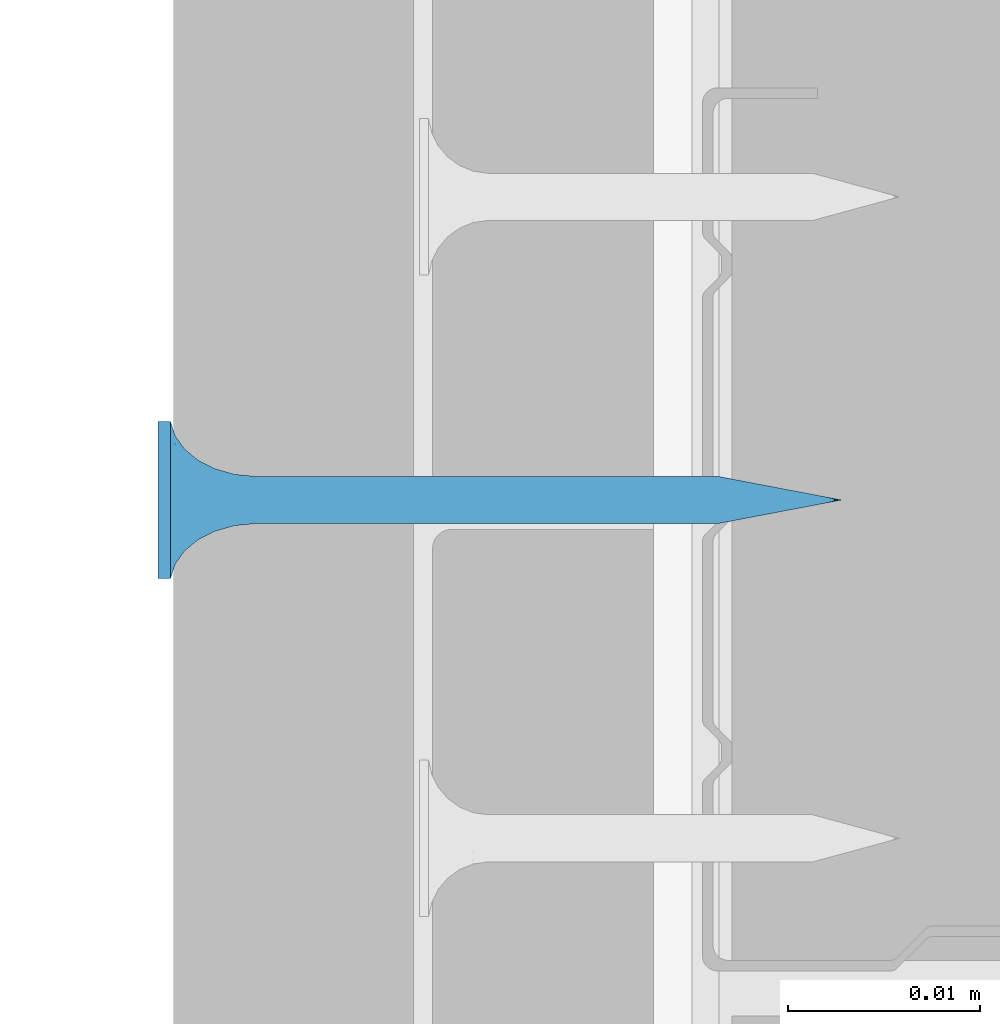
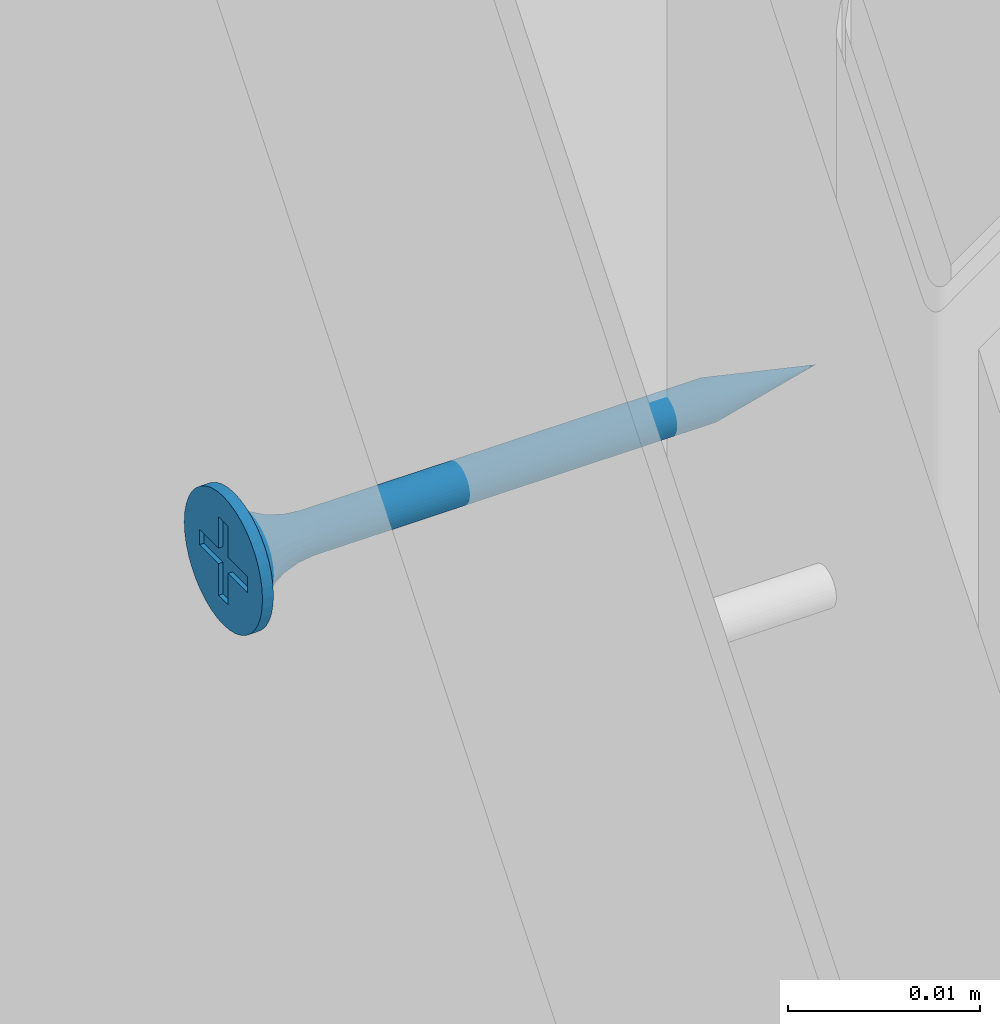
# One storey, part 62 of 92: 1 wall.
"""IFC2X3 building model written with IfcOpenShell, lengths in millimetres."""

import ifcopenshell
import ifcopenshell.guid

model = None  # the IFC model being written
_history = None  # IfcOwnerHistory: only IFC2X3 demands one
_inside = {}  # id of a spatial element -> (the spatial element, [elements in it])
_under = {}  # id of a project, library or spatial element -> (it, [spatial elements below it])
_declared = {}  # id of a project -> (the project, [libraries it declares])
_typed = {}  # id of a type object -> (the type object, [elements of that type])
_made_of = {}  # id of a material, layer set ... -> (it, [elements and type objects made of it])


def new_model(schema):
    """Start an empty IFC model of exactly this schema.

    Asked for "IFC4X3", IfcOpenShell would pick the latest addendum, in which some entities
    have other attributes; the version numbers below select the first issue.
    IFC2X3 requires an IfcOwnerHistory on every rooted entity: one is made here for all.
    """
    global model, _history
    if schema == "IFC4X3":
        model = ifcopenshell.file(schema_version=(4, 3, 0, 0))
    else:
        model = ifcopenshell.file(schema=schema)
    _inside.clear()
    _under.clear()
    _declared.clear()
    _typed.clear()
    _made_of.clear()
    _history = None
    if model.schema == "IFC2X3":
        org = make("IfcOrganization", Name="unknown")
        user = make(
            "IfcPersonAndOrganization",
            ThePerson=make("IfcPerson", FamilyName="unknown"),
            TheOrganization=org,
        )
        app = make(
            "IfcApplication",
            ApplicationDeveloper=org,
            Version="unknown",
            ApplicationFullName="unknown",
            ApplicationIdentifier="unknown",
        )
        _history = make(
            "IfcOwnerHistory",
            OwningUser=user,
            OwningApplication=app,
            ChangeAction="ADDED",
            CreationDate=0,
        )
    return model


def make(cls, **values):
    """One entity of the class cls with the attributes given. An attribute that is None is left unset."""
    return model.create_entity(
        cls, **{name: value for name, value in values.items() if value is not None}
    )


def rooted(cls, **values):
    """An entity with a GlobalId (a new one), such as an element, a storey or a relation."""
    return make(cls, GlobalId=ifcopenshell.guid.new(), OwnerHistory=_history, **values)


def si_unit(unit_type, name, prefix=None):
    """IfcSIUnit, for example si_unit("LENGTHUNIT", "METRE", prefix="MILLI")."""
    return make("IfcSIUnit", UnitType=unit_type, Prefix=prefix, Name=name)


def assignment(units):
    """IfcUnitAssignment: the units of a project."""
    return None if units is None else make("IfcUnitAssignment", Units=units)


def point(xyz):
    """IfcCartesianPoint."""
    return None if xyz is None else make("IfcCartesianPoint", Coordinates=xyz)


def direction(xyz):
    """IfcDirection."""
    return None if xyz is None else make("IfcDirection", DirectionRatios=xyz)


def frame(location, z_axis=None, x_axis=None):
    """IfcAxis2Placement3D, a coordinate frame: its origin and axes. An axis left out is left unset."""
    return make(
        "IfcAxis2Placement3D",
        Location=point(location),
        Axis=direction(z_axis),
        RefDirection=direction(x_axis),
    )


def origin_with_axes():
    """The frame at (0, 0, 0) with the z axis (0, 0, 1) and the x axis (1, 0, 0) written out."""
    return frame((0.0, 0.0, 0.0), z_axis=(0.0, 0.0, 1.0), x_axis=(1.0, 0.0, 0.0))


def place(relative_to, where):
    """IfcLocalPlacement: puts the frame where relative to a parent placement (None: the world)."""
    return make(
        "IfcLocalPlacement", PlacementRelTo=relative_to, RelativePlacement=where
    )


def context(
    kind, dimensions, precision=None, world=None, true_north=None, identifier=None
):
    """IfcGeometricRepresentationContext, for example the 3D "Model" context."""
    return make(
        "IfcGeometricRepresentationContext",
        ContextIdentifier=identifier,
        ContextType=kind,
        CoordinateSpaceDimension=dimensions,
        Precision=precision,
        WorldCoordinateSystem=world,
        TrueNorth=true_north,
    )


def subcontext(parent, identifier, kind, view, scale=None):
    """IfcGeometricRepresentationSubContext, for example "Body" below "Model"."""
    return make(
        "IfcGeometricRepresentationSubContext",
        ContextIdentifier=identifier,
        ContextType=kind,
        ParentContext=parent,
        TargetScale=scale,
        TargetView=view,
    )


def project(units=None, contexts=None):
    """IfcProject with its units and contexts."""
    return rooted(
        "IfcProject",
        Name="project",
        RepresentationContexts=contexts,
        UnitsInContext=assignment(units),
    )


def spatial(cls, under=None, at=None, **own):
    """A site, building, storey or space (cls), placed at a placement, below another one or the project."""
    s = rooted(cls, ObjectPlacement=at, **own)
    if under is not None:
        _under.setdefault(under.id(), (under, []))[1].append(s)
    return s


def faces_of(points, faces, orient=None, outer=None):
    """IfcFace entities. A face is a list of loops; a loop is a list of indices into points, from 0.

    orient and outer hold one flag for each loop. By default every Orientation is true, the
    first loop of a face is its IfcFaceOuterBound and the others are IfcFaceBound.
    """
    made = []
    for i, loops in enumerate(faces):
        bounds = []
        for j, loop in enumerate(loops):
            is_outer = j == 0 if outer is None else outer[i][j]
            bounds.append(
                make(
                    "IfcFaceOuterBound" if is_outer else "IfcFaceBound",
                    Bound=make("IfcPolyLoop", Polygon=[points[k] for k in loop]),
                    Orientation=True if orient is None else orient[i][j],
                )
            )
        made.append(make("IfcFace", Bounds=bounds))
    return made


def faceted_brep(points, faces, orient=None, outer=None, voids=None):
    """IfcFacetedBrep: a solid bounded by flat faces; with voids (closed shells), ...WithVoids."""
    shared = [point(p) for p in points]
    hull = make("IfcClosedShell", CfsFaces=faces_of(shared, faces, orient, outer))
    if voids is None:
        return make("IfcFacetedBrep", Outer=hull)
    return make(
        "IfcFacetedBrepWithVoids",
        Outer=hull,
        Voids=[
            make(cls, CfsFaces=faces_of(shared, fs, o, b)) for cls, fs, o, b in voids
        ],
    )


def shape(context_of_items, identifier, shape_type, items):
    """IfcShapeRepresentation: the items that make up one representation, for example the "Body"."""
    return make(
        "IfcShapeRepresentation",
        ContextOfItems=context_of_items,
        RepresentationIdentifier=identifier,
        RepresentationType=shape_type,
        Items=items,
    )


def material(Name=None, Category=None):
    """IfcMaterial."""
    return make("IfcMaterial", Name=Name, Category=Category)


def made_of(thing, what):
    """Note that an element or type object is made of a material, layer set ...; save() writes the relation."""
    if what is not None:
        _made_of.setdefault(what.id(), (what, []))[1].append(thing)
    return thing


def type_object(cls, material=None, **own):
    """A type object (cls), such as IfcWallType, which elements share."""
    return made_of(rooted(cls, **own), material)


def element(
    cls,
    number,
    at=None,
    inside=None,
    cuts=None,
    type_object=None,
    material=None,
    context=None,
    identifier="Body",
    shape_type=None,
    held_by="IfcProductDefinitionShape",
    body=None,
    shapes=None,
    **own,
):
    """One element of the class cls, such as IfcWall. Its Tag is "e" and its number.

    at: its placement. inside: the storey or other place that contains it. cuts: it is an
    opening in that element (IfcRelVoidsElement). A single representation is given by context,
    identifier, shape_type and body (its items); several are given by shapes. held_by: the class
    of the entity that holds the representations. save() writes the other relations.
    """
    e = rooted(cls, Tag="e%d" % number, ObjectPlacement=at, **own)
    if body is not None:
        shapes = [shape(context, identifier, shape_type, body)]
    if shapes is not None:
        e.Representation = make(held_by, Representations=shapes)
    if inside is not None:
        _inside.setdefault(inside.id(), (inside, []))[1].append(e)
    if cuts is not None:
        rooted(
            "IfcRelVoidsElement", RelatingBuildingElement=cuts, RelatedOpeningElement=e
        )
    if type_object is not None:
        _typed.setdefault(type_object.id(), (type_object, []))[1].append(e)
    return made_of(e, material)


def aggregate(whole, parts):
    """IfcRelAggregates: a whole, such as a stair, and the parts it consists of."""
    return rooted("IfcRelAggregates", RelatingObject=whole, RelatedObjects=parts)


def save(model, path):
    """Write the relations noted so far, then the file.

    IfcRelAggregates (storeys below a building ...), IfcRelContainedInSpatialStructure (elements
    in a storey), IfcRelDefinesByType, IfcRelAssociatesMaterial and IfcRelDeclares: one each for
    every whole, place, type object, material and project.
    """
    for whole, parts in _under.values():
        aggregate(whole, parts)
    for where, things in _inside.values():
        rooted(
            "IfcRelContainedInSpatialStructure",
            RelatedElements=things,
            RelatingStructure=where,
        )
    for kind, things in _typed.values():
        rooted("IfcRelDefinesByType", RelatedObjects=things, RelatingType=kind)
    for what, things in _made_of.values():
        rooted("IfcRelAssociatesMaterial", RelatedObjects=things, RelatingMaterial=what)
    for by, libraries in _declared.values():
        rooted("IfcRelDeclares", RelatingContext=by, RelatedDefinitions=libraries)
    model.write(path)


model = new_model("IFC2X3")

# Units and contexts
model_context = context("Model", 3, world=origin_with_axes())
body_context = subcontext(model_context, "Body", "Model", "MODEL_VIEW")
ifc_project = project(units=[si_unit("LENGTHUNIT", "METRE", prefix="MILLI"), si_unit("AREAUNIT", "SQUARE_METRE"), si_unit("VOLUMEUNIT", "CUBIC_METRE")], contexts=[model_context])

# Site, building, storey
site_placement = place(None, origin_with_axes())
site = spatial("IfcSite", under=ifc_project, at=site_placement, Name="Default Site", CompositionType="ELEMENT")
building_placement = place(site_placement, origin_with_axes())
building = spatial("IfcBuilding", under=site, at=building_placement, Name="Default Building", CompositionType="ELEMENT")
storey_placement = place(building_placement, origin_with_axes())
storey = spatial("IfcBuildingStorey", under=building, at=storey_placement, Name="Default Building Storey", CompositionType="ELEMENT", Elevation=0.0)

# Wall
ifc_material = material(Name="Default")
wall_type = type_object("IfcWallType", Name="Wkręt RIGIPS TN 35#30", PredefinedType="NOTDEFINED")
wall_placement = place(storey_placement, frame((4832.4514661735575, 602.0852645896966, 386.19379806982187), z_axis=(0.0, 0.0, 1.0), x_axis=(6.938893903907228e-17, -1.0, 0.0)))
element("IfcWall", 1, at=wall_placement, inside=storey, type_object=wall_type, material=ifc_material, Name="Wkręt RIGIPS TN 35", context=body_context, shape_type="Brep", body=[
    faceted_brep([(-141.48753293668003, -4832.598052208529, 555.1619773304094), (-141.48753293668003, -4833.259714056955, 555.1619773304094), (-141.5377465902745, -4833.259714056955, 555.8000000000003), (-141.5377465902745, -4832.598052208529, 555.8000000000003), (-141.33812900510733, -4832.598052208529, 554.539664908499), (-141.33812900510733, -4833.259714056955, 554.539664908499), (-141.09321328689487, -4832.598052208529, 553.948386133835), (-141.09321328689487, -4833.259714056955, 553.948386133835), (-140.75881656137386, -4832.598052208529, 553.4027002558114), (-140.75881656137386, -4833.259714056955, 553.4027002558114), (-140.34317265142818, -4833.259714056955, 552.9160436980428), (-140.45417279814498, -4832.598052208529, 553.031490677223), (-139.8565160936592, -4833.259714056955, 552.5003997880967), (-140.1080097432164, -4832.598052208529, 552.6986613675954), (-139.72512626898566, -4832.598052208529, 552.4088260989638), (-139.31083021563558, -4833.259714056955, 552.1660030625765), (-139.31083021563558, -4832.598052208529, 552.1660030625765), (-138.71955144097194, -4833.259714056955, 551.9210873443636), (-138.87086516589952, -4832.598052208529, 551.9735585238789), (-138.41133029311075, -4832.598052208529, 551.8341602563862), (-138.0972390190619, -4833.259714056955, 551.7716834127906), (-137.9385961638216, -4832.598052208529, 551.74974052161), (-137.45921634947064, -4833.259714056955, 551.7214697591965), (-137.45921634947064, -4832.598052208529, 551.7214697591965), (-136.82119367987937, -4832.598052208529, 551.7716834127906), (-136.82119367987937, -4833.259714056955, 551.7716834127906), (-136.19888125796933, -4832.598052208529, 551.9210873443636), (-136.19888125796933, -4833.259714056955, 551.9210873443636), (-135.6076024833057, -4832.598052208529, 552.1660030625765), (-135.6076024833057, -4833.259714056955, 552.1660030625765), (-135.06191660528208, -4832.598052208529, 552.5003997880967), (-135.06191660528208, -4833.259714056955, 552.5003997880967), (-134.57526004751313, -4832.598052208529, 552.9160436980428), (-134.57526004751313, -4833.259714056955, 552.9160436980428), (-134.1596161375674, -4832.598052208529, 553.4027002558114), (-134.1596161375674, -4833.259714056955, 553.4027002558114), (-133.8252194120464, -4832.598052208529, 553.948386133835), (-133.8252194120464, -4833.259714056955, 553.948386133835), (-133.58030369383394, -4832.598052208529, 554.539664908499), (-133.58030369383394, -4833.259714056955, 554.539664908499), (-133.3806861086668, -4833.259714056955, 555.8000000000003), (-133.3806861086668, -4832.598052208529, 555.8000000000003), (-133.43089976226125, -4832.598052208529, 556.4380226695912), (-133.43089976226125, -4833.259714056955, 556.4380226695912), (-133.43089976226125, -4833.259714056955, 555.1619773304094), (-133.43089976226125, -4832.598052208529, 555.1619773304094), (-133.58030369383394, -4832.598052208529, 557.0603350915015), (-133.58030369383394, -4833.259714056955, 557.0603350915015), (-133.8252194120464, -4832.598052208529, 557.6516138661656), (-133.8252194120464, -4833.259714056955, 557.6516138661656), (-134.1596161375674, -4832.598052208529, 558.1972997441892), (-134.1596161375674, -4833.259714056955, 558.1972997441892), (-134.57526004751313, -4832.598052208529, 558.6839563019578), (-134.57526004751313, -4833.259714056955, 558.6839563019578), (-135.06191660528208, -4832.598052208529, 559.0996002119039), (-135.06191660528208, -4833.259714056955, 559.0996002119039), (-135.6076024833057, -4832.598052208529, 559.4339969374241), (-135.6076024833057, -4833.259714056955, 559.4339969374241), (-136.19888125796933, -4832.598052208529, 559.678912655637), (-136.19888125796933, -4833.259714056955, 559.678912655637), (-136.82119367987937, -4832.598052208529, 559.82831658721), (-136.82119367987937, -4833.259714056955, 559.82831658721), (-137.45921634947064, -4832.598052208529, 559.8785302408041), (-137.45921634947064, -4833.259714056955, 559.8785302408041), (-138.0972390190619, -4832.598052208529, 559.82831658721), (-138.0972390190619, -4833.259714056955, 559.82831658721), (-138.71955144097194, -4832.598052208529, 559.678912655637), (-138.71955144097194, -4833.259714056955, 559.678912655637), (-139.31083021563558, -4832.598052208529, 559.4339969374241), (-139.31083021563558, -4833.259714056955, 559.4339969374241), (-139.8565160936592, -4832.598052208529, 559.0996002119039), (-139.8565160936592, -4833.259714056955, 559.0996002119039), (-140.34317265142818, -4832.598052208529, 558.6839563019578), (-140.34317265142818, -4833.259714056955, 558.6839563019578), (-140.75881656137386, -4832.598052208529, 558.1972997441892), (-140.75881656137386, -4833.259714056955, 558.1972997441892), (-141.09321328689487, -4832.598052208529, 557.6516138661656), (-141.09321328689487, -4833.259714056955, 557.6516138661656), (-141.33812900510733, -4832.598052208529, 557.0603350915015), (-141.33812900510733, -4833.259714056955, 557.0603350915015), (-141.48753293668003, -4832.598052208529, 556.4380226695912), (-141.48753293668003, -4833.259714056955, 556.4380226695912), (-137.65172779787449, -4828.206294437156, 554.5845305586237), (-137.45921634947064, -4828.206294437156, 554.5693795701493), (-137.8060615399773, -4829.281368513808, 554.505556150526), (-137.45921634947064, -4829.281368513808, 554.4598930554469), (-137.83949898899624, -4828.206294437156, 554.6296104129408), (-138.12926982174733, -4829.281368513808, 554.6394333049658), (-138.01790634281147, -4828.206294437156, 554.7035091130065), (-138.1825568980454, -4828.206294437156, 554.8044072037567), (-138.40681506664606, -4829.281368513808, 554.8524012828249), (-138.3293964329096, -4828.206294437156, 554.9298199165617), (-138.45480914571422, -4828.206294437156, 555.0766594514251), (-138.6197830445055, -4829.281368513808, 555.1299465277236), (-138.5557072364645, -4828.206294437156, 555.2413100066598), (-138.753660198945, -4829.281368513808, 555.453154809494), (-138.62960593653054, -4828.206294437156, 555.4197173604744), (-138.67468579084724, -4828.206294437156, 555.6074885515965), (-138.79932329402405, -4829.281368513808, 555.7999999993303), (-138.68983677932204, -4828.206294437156, 555.8000000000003), (-138.67468579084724, -4828.206294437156, 555.9925114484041), (-138.753660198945, -4829.281368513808, 556.1468451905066), (-138.62960593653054, -4828.206294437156, 556.1802826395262), (-138.6197830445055, -4829.281368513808, 556.470053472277), (-138.5557072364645, -4828.206294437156, 556.3586899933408), (-138.45480914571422, -4828.206294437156, 556.5233405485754), (-138.40681506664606, -4829.281368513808, 556.7475987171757), (-138.3293964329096, -4828.206294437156, 556.6701800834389), (-138.1825568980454, -4828.206294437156, 556.7955927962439), (-138.12926982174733, -4829.281368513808, 556.9605666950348), (-138.01790634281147, -4828.206294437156, 556.8964908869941), (-137.8060615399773, -4829.281368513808, 557.0944438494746), (-137.83949898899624, -4828.206294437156, 556.9703895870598), (-137.65172779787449, -4828.206294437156, 557.0154694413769), (-137.45921634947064, -4829.281368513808, 557.1401069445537), (-137.45921634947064, -4828.206294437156, 557.0306204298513), (-137.26670490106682, -4828.206294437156, 557.0154694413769), (-137.11237115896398, -4829.281368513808, 557.0944438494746), (-137.07893370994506, -4828.206294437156, 556.9703895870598), (-136.78916287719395, -4829.281368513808, 556.9605666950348), (-136.9005263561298, -4828.206294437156, 556.8964908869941), (-136.7358758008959, -4828.206294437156, 556.7955927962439), (-136.5116176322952, -4829.281368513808, 556.7475987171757), (-136.58903626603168, -4828.206294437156, 556.6701800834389), (-136.46362355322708, -4828.206294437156, 556.5233405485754), (-136.2986496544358, -4829.281368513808, 556.470053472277), (-136.36272546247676, -4828.206294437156, 556.3586899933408), (-136.16477249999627, -4829.281368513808, 556.1468451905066), (-136.28882676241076, -4828.206294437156, 556.1802826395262), (-136.24374690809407, -4828.206294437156, 555.9925114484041), (-136.11910940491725, -4829.281368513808, 555.7999999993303), (-136.22859591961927, -4828.206294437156, 555.8000000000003), (-136.24374690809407, -4828.206294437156, 555.6074885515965), (-136.16477249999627, -4829.281368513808, 555.453154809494), (-136.28882676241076, -4828.206294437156, 555.4197173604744), (-136.2986496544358, -4829.281368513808, 555.1299465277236), (-136.36272546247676, -4828.206294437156, 555.2413100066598), (-136.46362355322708, -4828.206294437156, 555.0766594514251), (-136.5116176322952, -4829.281368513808, 554.8524012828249), (-136.58903626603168, -4828.206294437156, 554.9298199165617), (-136.7358758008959, -4828.206294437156, 554.8044072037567), (-136.78916287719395, -4829.281368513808, 554.6394333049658), (-136.9005263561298, -4828.206294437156, 554.7035091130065), (-137.11237115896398, -4829.281368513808, 554.505556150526), (-137.07893370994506, -4828.206294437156, 554.6296104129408), (-137.26670490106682, -4828.206294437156, 554.5845305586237), (-137.45921634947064, -4830.288222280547, 554.1737111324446), (-137.88013087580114, -4830.288222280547, 554.2291255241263), (-138.2723607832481, -4830.288222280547, 554.3915925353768), (-138.60917621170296, -4830.288222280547, 554.650040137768), (-138.8676238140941, -4830.288222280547, 554.9868555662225), (-139.03009082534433, -4830.288222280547, 555.3790854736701), (-139.08550521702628, -4830.288222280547, 555.7999999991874), (-139.03009082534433, -4830.288222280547, 556.2209145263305), (-138.8676238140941, -4830.288222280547, 556.6131444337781), (-138.60917621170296, -4830.288222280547, 556.9499598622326), (-138.2723607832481, -4830.288222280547, 557.2084074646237), (-137.88013087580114, -4830.288222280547, 557.3708744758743), (-137.45921634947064, -4830.288222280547, 557.426288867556), (-137.03830182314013, -4830.288222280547, 557.3708744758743), (-136.64607191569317, -4830.288222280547, 557.2084074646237), (-136.30925648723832, -4830.288222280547, 556.9499598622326), (-136.05080888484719, -4830.288222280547, 556.6131444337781), (-135.88834187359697, -4830.288222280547, 556.2209145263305), (-135.832927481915, -4830.288222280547, 555.7999999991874), (-135.88834187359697, -4830.288222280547, 555.3790854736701), (-136.05080888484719, -4830.288222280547, 554.9868555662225), (-136.30925648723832, -4830.288222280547, 554.650040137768), (-136.64607191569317, -4830.288222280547, 554.3915925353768), (-137.03830182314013, -4830.288222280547, 554.2291255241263), (-137.45921634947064, -4831.168773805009, 553.7273430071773), (-137.99565943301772, -4831.168773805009, 553.7979670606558), (-138.49554484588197, -4831.168773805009, 554.0050264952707), (-138.92480608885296, -4831.168773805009, 554.3344102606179), (-139.25418985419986, -4831.168773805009, 554.763671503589), (-139.46124928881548, -4831.168773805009, 555.2635569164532), (-139.53187334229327, -4831.168773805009, 555.799999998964), (-139.46124928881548, -4831.168773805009, 556.3364430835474), (-139.25418985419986, -4831.168773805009, 556.8363284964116), (-138.92480608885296, -4831.168773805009, 557.2655897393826), (-138.49554484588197, -4831.168773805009, 557.5949735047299), (-137.99565943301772, -4831.168773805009, 557.8020329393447), (-137.45921634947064, -4831.168773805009, 557.8726569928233), (-136.92277326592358, -4831.168773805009, 557.8020329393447), (-136.42288785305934, -4831.168773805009, 557.5949735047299), (-135.9936266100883, -4831.168773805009, 557.2655897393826), (-135.6642428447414, -4831.168773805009, 556.8363284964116), (-135.45718341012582, -4831.168773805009, 556.3364430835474), (-135.386559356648, -4831.168773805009, 555.799999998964), (-135.45718341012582, -4831.168773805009, 555.2635569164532), (-135.6642428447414, -4831.168773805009, 554.763671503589), (-135.9936266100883, -4831.168773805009, 554.3344102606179), (-136.42288785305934, -4831.168773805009, 554.0050264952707), (-136.92277326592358, -4831.168773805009, 553.7979670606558), (-137.45921634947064, -4831.872222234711, 553.1465392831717), (-138.14598252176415, -4831.872222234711, 553.2369539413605), (-138.78594670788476, -4831.872222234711, 553.5020355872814), (-139.33549641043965, -4831.872222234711, 553.9237199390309), (-139.75718076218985, -4831.872222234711, 554.4732696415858), (-140.02226240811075, -4831.872222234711, 555.1132338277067), (-140.11267706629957, -4831.872222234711, 555.7999999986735), (-140.02226240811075, -4831.872222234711, 556.4867661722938), (-139.75718076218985, -4831.872222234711, 557.1267303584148), (-139.33549641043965, -4831.872222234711, 557.6762800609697), (-138.78594670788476, -4831.872222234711, 558.0979644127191), (-138.14598252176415, -4831.872222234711, 558.3630460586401), (-137.45921634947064, -4831.872222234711, 558.4534607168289), (-136.77245017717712, -4831.872222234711, 558.3630460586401), (-136.13248599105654, -4831.872222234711, 558.0979644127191), (-135.58293628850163, -4831.872222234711, 557.6762800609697), (-135.16125193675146, -4831.872222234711, 557.1267303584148), (-134.89617029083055, -4831.872222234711, 556.4867661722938), (-134.8057556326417, -4831.872222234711, 555.7999999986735), (-134.89617029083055, -4831.872222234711, 555.1132338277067), (-135.16125193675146, -4831.872222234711, 554.4732696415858), (-135.58293628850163, -4831.872222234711, 553.9237199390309), (-136.13248599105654, -4831.872222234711, 553.5020355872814), (-136.77245017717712, -4831.872222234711, 553.2369539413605), (-137.45921634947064, -4832.357990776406, 552.4648055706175), (-138.3224281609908, -4832.357990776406, 552.5784495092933), (-139.12681356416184, -4832.357990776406, 552.9116369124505), (-139.8175549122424, -4832.357990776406, 553.4416614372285), (-140.34757943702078, -4832.357990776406, 554.1324027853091), (-140.680766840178, -4832.357990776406, 554.9367881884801), (-140.79441077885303, -4832.357990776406, 555.7999999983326), (-140.680766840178, -4832.357990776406, 556.6632118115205), (-140.34757943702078, -4832.357990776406, 557.4675972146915), (-139.8175549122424, -4832.357990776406, 558.1583385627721), (-139.12681356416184, -4832.357990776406, 558.6883630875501), (-138.3224281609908, -4832.357990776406, 559.0215504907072), (-137.45921634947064, -4832.357990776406, 559.1351944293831), (-136.5960045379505, -4832.357990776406, 559.0215504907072), (-135.79161913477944, -4832.357990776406, 558.6883630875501), (-135.10087778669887, -4832.357990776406, 558.1583385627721), (-134.5708532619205, -4832.357990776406, 557.4675972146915), (-134.23766585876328, -4832.357990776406, 556.6632118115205), (-134.12402192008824, -4832.357990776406, 555.7999999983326), (-134.23766585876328, -4832.357990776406, 554.9367881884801), (-134.5708532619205, -4832.357990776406, 554.1324027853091), (-135.10087778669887, -4832.357990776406, 553.4416614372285), (-135.79161913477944, -4832.357990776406, 552.9116369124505), (-136.5960045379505, -4832.357990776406, 552.5784495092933), (-138.67468579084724, -4804.0937578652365, 555.6074885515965), (-138.68983677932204, -4804.0937578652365, 555.8000000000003), (-138.62960593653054, -4804.0937578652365, 555.4197173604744), (-138.5557072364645, -4804.0937578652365, 555.2413100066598), (-138.45480914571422, -4804.0937578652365, 555.0766594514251), (-138.3293964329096, -4804.0937578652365, 554.9298199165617), (-138.1825568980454, -4804.0937578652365, 554.8044072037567), (-138.01790634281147, -4804.0937578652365, 554.7035091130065), (-137.83949898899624, -4804.0937578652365, 554.6296104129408), (-137.65172779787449, -4804.0937578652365, 554.5845305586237), (-137.45921634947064, -4804.0937578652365, 554.5693795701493), (-137.26670490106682, -4804.0937578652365, 554.5845305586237), (-137.07893370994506, -4804.0937578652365, 554.6296104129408), (-136.9005263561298, -4804.0937578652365, 554.7035091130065), (-136.7358758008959, -4804.0937578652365, 554.8044072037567), (-136.58903626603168, -4804.0937578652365, 554.9298199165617), (-136.46362355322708, -4804.0937578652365, 555.0766594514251), (-136.36272546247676, -4804.0937578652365, 555.2413100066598), (-136.28882676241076, -4804.0937578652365, 555.4197173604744), (-136.22859591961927, -4804.0937578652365, 555.8000000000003), (-136.24374690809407, -4804.0937578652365, 555.9925114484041), (-136.24374690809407, -4804.0937578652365, 555.6074885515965), (-136.28882676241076, -4804.0937578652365, 556.1802826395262), (-136.36272546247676, -4804.0937578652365, 556.3586899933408), (-136.46362355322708, -4804.0937578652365, 556.5233405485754), (-136.58903626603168, -4804.0937578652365, 556.6701800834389), (-136.7358758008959, -4804.0937578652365, 556.7955927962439), (-136.9005263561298, -4804.0937578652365, 556.8964908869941), (-137.07893370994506, -4804.0937578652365, 556.9703895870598), (-137.26670490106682, -4804.0937578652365, 557.0154694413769), (-137.45921634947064, -4804.0937578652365, 557.0306204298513), (-137.65172779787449, -4804.0937578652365, 557.0154694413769), (-137.83949898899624, -4804.0937578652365, 556.9703895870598), (-138.01790634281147, -4804.0937578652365, 556.8964908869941), (-138.1825568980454, -4804.0937578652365, 556.7955927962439), (-138.3293964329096, -4804.0937578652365, 556.6701800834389), (-138.45480914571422, -4804.0937578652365, 556.5233405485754), (-138.5557072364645, -4804.0937578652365, 556.3586899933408), (-138.62960593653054, -4804.0937578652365, 556.1802826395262), (-138.67468579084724, -4804.0937578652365, 555.9925114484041), (-137.45921634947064, -4797.627062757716, 555.8000000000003), (-139.95921629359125, -4833.259714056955, 555.2999999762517), (-139.95921629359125, -4833.259714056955, 556.3000000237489), (-137.95921637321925, -4833.259714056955, 556.3000000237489), (-137.95921637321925, -4833.259714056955, 558.2999999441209), (-136.95921632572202, -4833.259714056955, 558.2999999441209), (-136.95921632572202, -4833.259714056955, 556.3000000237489), (-134.95921640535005, -4833.259714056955, 556.3000000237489), (-134.95921640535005, -4833.259714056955, 555.2999999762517), (-136.95921632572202, -4833.259714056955, 555.2999999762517), (-136.95921632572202, -4833.259714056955, 553.3000000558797), (-137.95921637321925, -4833.259714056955, 553.3000000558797), (-137.95921637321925, -4833.259714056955, 555.2999999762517), (-136.95921632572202, -4832.988378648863, 558.2999999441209), (-137.95921637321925, -4832.988378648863, 558.2999999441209), (-137.95921637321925, -4832.988378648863, 556.3000000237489), (-139.95921629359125, -4832.988378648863, 556.3000000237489), (-139.95921629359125, -4832.988378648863, 555.2999999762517), (-137.95921637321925, -4832.988378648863, 555.2999999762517), (-137.95921637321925, -4832.988378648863, 553.3000000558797), (-136.95921632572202, -4832.988378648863, 553.3000000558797), (-136.95921632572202, -4832.988378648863, 555.2999999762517), (-134.95921640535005, -4832.988378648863, 555.2999999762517), (-134.95921640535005, -4832.988378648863, 556.3000000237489), (-136.95921632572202, -4832.988378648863, 556.3000000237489)], [[[0, 1, 2, 3]], [[1, 0, 4, 5]], [[5, 4, 6, 7]], [[8, 9, 7, 6]], [[8, 10, 9]], [[8, 11, 10]], [[12, 11, 13]], [[12, 10, 11]], [[13, 14, 12]], [[14, 15, 12]], [[14, 16, 15]], [[17, 16, 18]], [[17, 15, 16]], [[18, 19, 17]], [[20, 19, 21]], [[20, 17, 19]], [[21, 22, 20]], [[21, 23, 22]], [[24, 25, 22, 23]], [[25, 24, 26, 27]], [[27, 26, 28, 29]], [[30, 31, 29, 28]], [[31, 30, 32, 33]], [[34, 35, 33, 32]], [[35, 34, 36, 37]], [[37, 36, 38, 39]], [[40, 41, 42, 43]], [[44, 45, 41, 40]], [[45, 44, 39, 38]], [[43, 42, 46, 47]], [[47, 46, 48, 49]], [[50, 51, 49, 48]], [[51, 50, 52, 53]], [[54, 55, 53, 52]], [[55, 54, 56, 57]], [[57, 56, 58, 59]], [[60, 61, 59, 58]], [[61, 60, 62, 63]], [[64, 65, 63, 62]], [[65, 64, 66, 67]], [[67, 66, 68, 69]], [[70, 71, 69, 68]], [[71, 70, 72, 73]], [[74, 75, 73, 72]], [[75, 74, 76, 77]], [[77, 76, 78, 79]], [[80, 81, 79, 78]], [[81, 80, 3, 2]], [[82, 83, 84]], [[83, 85, 84]], [[84, 86, 82]], [[84, 87, 88, 86]], [[89, 88, 87]], [[87, 90, 89]], [[90, 91, 89]], [[92, 91, 93]], [[91, 90, 93]], [[93, 94, 92]], [[93, 95, 96, 94]], [[97, 96, 95]], [[95, 98, 97]], [[98, 99, 97]], [[100, 99, 101]], [[99, 98, 101]], [[101, 102, 100]], [[101, 103, 104, 102]], [[105, 104, 103]], [[103, 106, 105]], [[106, 107, 105]], [[108, 107, 109]], [[107, 106, 109]], [[109, 110, 108]], [[109, 111, 112, 110]], [[113, 112, 111]], [[111, 114, 113]], [[114, 115, 113]], [[116, 115, 117]], [[115, 114, 117]], [[117, 118, 116]], [[117, 119, 120, 118]], [[121, 120, 119]], [[119, 122, 121]], [[122, 123, 121]], [[124, 123, 125]], [[123, 122, 125]], [[125, 126, 124]], [[125, 127, 128, 126]], [[129, 128, 127]], [[127, 130, 129]], [[130, 131, 129]], [[132, 131, 133]], [[131, 130, 133]], [[133, 134, 132]], [[133, 135, 136, 134]], [[137, 136, 135]], [[135, 138, 137]], [[138, 139, 137]], [[140, 139, 141]], [[139, 138, 141]], [[141, 142, 140]], [[141, 143, 144, 142]], [[145, 144, 143]], [[143, 85, 145]], [[85, 83, 145]], [[146, 147, 84, 85]], [[84, 147, 148, 87]], [[87, 148, 149, 90]], [[90, 149, 150, 93]], [[93, 150, 151, 95]], [[95, 151, 152, 98]], [[98, 152, 153, 101]], [[101, 153, 154, 103]], [[103, 154, 155, 106]], [[106, 155, 156, 109]], [[109, 156, 157, 111]], [[111, 157, 158, 114]], [[114, 158, 159, 117]], [[117, 159, 160, 119]], [[119, 160, 161, 122]], [[122, 161, 162, 125]], [[125, 162, 163, 127]], [[127, 163, 164, 130]], [[130, 164, 165, 133]], [[133, 165, 166, 135]], [[135, 166, 167, 138]], [[138, 167, 168, 141]], [[141, 168, 169, 143]], [[143, 169, 146, 85]], [[170, 171, 147, 146]], [[147, 171, 172, 148]], [[148, 172, 173, 149]], [[149, 173, 174, 150]], [[150, 174, 175, 151]], [[151, 175, 176, 152]], [[152, 176, 177, 153]], [[153, 177, 178, 154]], [[154, 178, 179, 155]], [[155, 179, 180, 156]], [[156, 180, 181, 157]], [[157, 181, 182, 158]], [[158, 182, 183, 159]], [[159, 183, 184, 160]], [[160, 184, 185, 161]], [[161, 185, 186, 162]], [[162, 186, 187, 163]], [[163, 187, 188, 164]], [[164, 188, 189, 165]], [[165, 189, 190, 166]], [[166, 190, 191, 167]], [[167, 191, 192, 168]], [[168, 192, 193, 169]], [[169, 193, 170, 146]], [[194, 195, 171, 170]], [[171, 195, 196, 172]], [[172, 196, 197, 173]], [[173, 197, 198, 174]], [[174, 198, 199, 175]], [[175, 199, 200, 176]], [[176, 200, 201, 177]], [[177, 201, 202, 178]], [[178, 202, 203, 179]], [[179, 203, 204, 180]], [[180, 204, 205, 181]], [[181, 205, 206, 182]], [[182, 206, 207, 183]], [[183, 207, 208, 184]], [[184, 208, 209, 185]], [[185, 209, 210, 186]], [[186, 210, 211, 187]], [[187, 211, 212, 188]], [[188, 212, 213, 189]], [[189, 213, 214, 190]], [[190, 214, 215, 191]], [[191, 215, 216, 192]], [[192, 216, 217, 193]], [[193, 217, 194, 170]], [[21, 19, 218]], [[19, 219, 218]], [[218, 23, 21]], [[218, 219, 195, 194]], [[18, 16, 219]], [[16, 220, 219]], [[219, 19, 18]], [[195, 219, 220, 196]], [[13, 11, 221]], [[14, 13, 220]], [[13, 221, 220]], [[220, 16, 14]], [[196, 220, 221, 197]], [[8, 6, 222]], [[222, 221, 8]], [[221, 11, 8]], [[197, 221, 222, 198]], [[4, 223, 222, 6]], [[198, 222, 223, 199]], [[0, 3, 223]], [[3, 224, 223]], [[223, 4, 0]], [[199, 223, 224, 200]], [[80, 78, 225]], [[225, 224, 80]], [[224, 3, 80]], [[200, 224, 225, 201]], [[78, 76, 226, 225]], [[201, 225, 226, 202]], [[74, 72, 226]], [[72, 227, 226]], [[226, 76, 74]], [[202, 226, 227, 203]], [[70, 68, 228]], [[228, 227, 70]], [[227, 72, 70]], [[203, 227, 228, 204]], [[68, 66, 229, 228]], [[204, 228, 229, 205]], [[64, 62, 229]], [[62, 230, 229]], [[229, 66, 64]], [[205, 229, 230, 206]], [[60, 58, 231]], [[231, 230, 60]], [[230, 62, 60]], [[206, 230, 231, 207]], [[58, 56, 232, 231]], [[207, 231, 232, 208]], [[54, 52, 232]], [[52, 233, 232]], [[232, 56, 54]], [[208, 232, 233, 209]], [[50, 48, 234]], [[234, 233, 50]], [[233, 52, 50]], [[209, 233, 234, 210]], [[48, 46, 235, 234]], [[210, 234, 235, 211]], [[42, 41, 235]], [[41, 236, 235]], [[235, 46, 42]], [[211, 235, 236, 212]], [[45, 38, 237]], [[237, 236, 45]], [[236, 41, 45]], [[212, 236, 237, 213]], [[36, 238, 237, 38]], [[213, 237, 238, 214]], [[34, 32, 238]], [[32, 239, 238]], [[238, 36, 34]], [[214, 238, 239, 215]], [[30, 28, 240]], [[240, 239, 30]], [[239, 32, 30]], [[215, 239, 240, 216]], [[26, 241, 240, 28]], [[216, 240, 241, 217]], [[217, 241, 218, 194]], [[24, 23, 241]], [[23, 218, 241]], [[241, 26, 24]], [[242, 97, 99, 243]], [[97, 242, 244, 96]], [[96, 244, 245, 94]], [[246, 92, 94, 245]], [[92, 246, 247, 91]], [[248, 89, 91, 247]], [[89, 248, 249, 88]], [[88, 249, 250, 86]], [[251, 82, 86, 250]], [[82, 251, 252, 83]], [[253, 145, 83, 252]], [[145, 253, 254, 144]], [[144, 254, 255, 142]], [[256, 140, 142, 255]], [[140, 256, 257, 139]], [[258, 137, 139, 257]], [[137, 258, 259, 136]], [[136, 259, 260, 134]], [[131, 261, 262, 129]], [[132, 263, 261, 131]], [[263, 132, 134, 260]], [[129, 262, 264, 128]], [[128, 264, 265, 126]], [[266, 124, 126, 265]], [[124, 266, 267, 123]], [[268, 121, 123, 267]], [[121, 268, 269, 120]], [[120, 269, 270, 118]], [[271, 116, 118, 270]], [[116, 271, 272, 115]], [[273, 113, 115, 272]], [[113, 273, 274, 112]], [[112, 274, 275, 110]], [[276, 108, 110, 275]], [[108, 276, 277, 107]], [[278, 105, 107, 277]], [[105, 278, 279, 104]], [[104, 279, 280, 102]], [[281, 100, 102, 280]], [[100, 281, 243, 99]], [[282, 244, 242]], [[242, 243, 282]], [[282, 245, 244]], [[282, 247, 246]], [[246, 245, 282]], [[282, 249, 248]], [[248, 247, 282]], [[282, 250, 249]], [[282, 252, 251]], [[251, 250, 282]], [[282, 254, 253]], [[253, 252, 282]], [[282, 255, 254]], [[282, 257, 256]], [[256, 255, 282]], [[282, 259, 258]], [[258, 257, 282]], [[282, 260, 259]], [[282, 261, 263]], [[263, 260, 282]], [[282, 264, 262]], [[262, 261, 282]], [[282, 265, 264]], [[282, 267, 266]], [[266, 265, 282]], [[282, 269, 268]], [[268, 267, 282]], [[282, 270, 269]], [[282, 272, 271]], [[271, 270, 282]], [[282, 274, 273]], [[273, 272, 282]], [[282, 275, 274]], [[282, 277, 276]], [[276, 275, 282]], [[282, 279, 278]], [[278, 277, 282]], [[282, 280, 279]], [[282, 243, 281]], [[281, 280, 282]], [[75, 77, 79, 81, 2, 1, 5, 7, 9, 10, 12, 15, 17, 20, 22, 25, 27, 29, 31, 33, 35, 37, 39, 44, 40, 43, 47, 49, 51, 53, 55, 57, 59, 61, 63, 65, 67, 69, 71, 73], [283, 284, 285, 286, 287, 288, 289, 290, 291, 292, 293, 294]], [[295, 296, 297, 298, 299, 300, 301, 302, 303, 304, 305, 306]], [[303, 291, 290, 304]], [[304, 290, 289, 305]], [[305, 289, 288, 306]], [[306, 288, 287, 295]], [[295, 287, 286, 296]], [[296, 286, 285, 297]], [[297, 285, 284, 298]], [[298, 284, 283, 299]], [[299, 283, 294, 300]], [[300, 294, 293, 301]], [[301, 293, 292, 302]], [[302, 292, 291, 303]]]),
])

save(model, "model.ifc")
